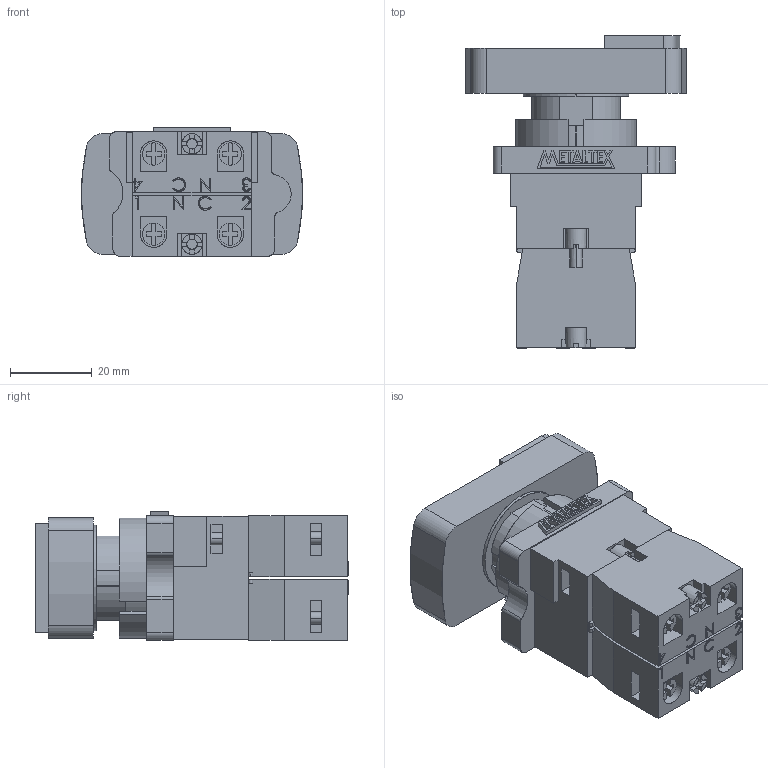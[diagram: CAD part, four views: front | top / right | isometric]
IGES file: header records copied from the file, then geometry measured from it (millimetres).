
Start section: SolidWorks IGES file using analytic representation for surfaces
Global section: file name: D:\X - Arquivos\PROEX\Empresas\P11 - METALTEX\01 - Produtos\IGES\6ª remessa\1ª etapa\P20IDL-Y-1C.IGS; native system: SolidWorks 2012; preprocessor: SolidWorks 2012; author: Usuario; date: 190125.145429; units: millimetre
Bounding box: 54 x 76.25 x 31.5 mm (x, y, z)
Surface area: 26083.4 mm2 (no closed solid volume)
Topology: 0 solids, 0 shells, 720 faces, 7843 edges, 7843 vertices
Faces by surface type: bspline 569, revolution 151
